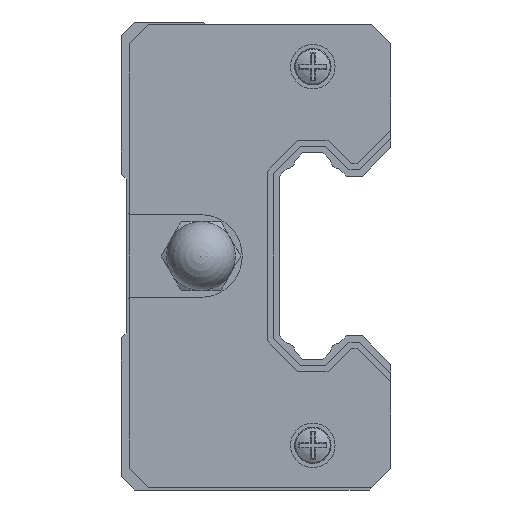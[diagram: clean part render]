
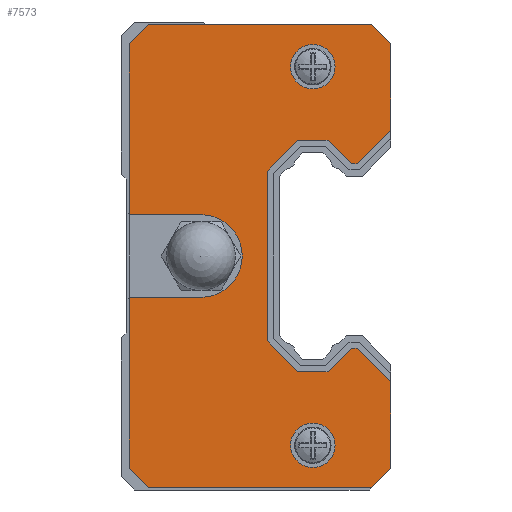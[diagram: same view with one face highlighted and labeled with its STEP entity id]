
A CAD part, left-side view. The second image highlights one B-rep face of the part: STEP entity #7573.
In plain terms, the highlighted planar face has unit normal (-1, 0, 0) as drawn and (1, 0, 0) by its records, which use the part's own axes.
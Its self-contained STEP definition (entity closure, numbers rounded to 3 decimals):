
#7555 = VERTEX_POINT('',#7556);
#7556 = CARTESIAN_POINT('',(2.5,10.07,15.365));
#7561 = EDGE_CURVE('',#7555,#7555,#7562,.T.);
#7562 = CIRCLE('',#7563,1.615);
#7563 = AXIS2_PLACEMENT_3D('',#7564,#7565,#7566);
#7564 = CARTESIAN_POINT('',(2.5,10.07,13.75));
#7565 = DIRECTION('',(-1.,0.,0.));
#7566 = DIRECTION('',(0.,0.,1.));
#7573 = ADVANCED_FACE('',(#7574,#7769,#7772),#7783,.T.);
#7574 = FACE_BOUND('',#7575,.T.);
#7575 = EDGE_LOOP('',(#7576,#7586,#7594,#7602,#7610,#7618,#7626,#7634,
    #7642,#7650,#7658,#7666,#7674,#7682,#7690,#7698,#7706,#7714,#7723,
    #7731,#7739,#7747,#7755,#7763));
#7576 = ORIENTED_EDGE('',*,*,#7577,.F.);
#7577 = EDGE_CURVE('',#7578,#7580,#7582,.T.);
#7578 = VERTEX_POINT('',#7579);
#7579 = CARTESIAN_POINT('',(2.5,6.849,6.699));
#7580 = VERTEX_POINT('',#7581);
#7581 = CARTESIAN_POINT('',(2.5,4.4,9.148));
#7582 = LINE('',#7583,#7584);
#7583 = CARTESIAN_POINT('',(2.5,6.849,6.699));
#7584 = VECTOR('',#7585,1.);
#7585 = DIRECTION('',(0.,-0.707,0.707));
#7586 = ORIENTED_EDGE('',*,*,#7587,.F.);
#7587 = EDGE_CURVE('',#7588,#7578,#7590,.T.);
#7588 = VERTEX_POINT('',#7589);
#7589 = CARTESIAN_POINT('',(2.5,7.267,6.699));
#7590 = LINE('',#7591,#7592);
#7591 = CARTESIAN_POINT('',(2.5,7.267,6.699));
#7592 = VECTOR('',#7593,1.);
#7593 = DIRECTION('',(0.,-1.,0.));
#7594 = ORIENTED_EDGE('',*,*,#7595,.F.);
#7595 = EDGE_CURVE('',#7596,#7588,#7598,.T.);
#7596 = VERTEX_POINT('',#7597);
#7597 = CARTESIAN_POINT('',(2.5,8.968,8.4));
#7598 = LINE('',#7599,#7600);
#7599 = CARTESIAN_POINT('',(2.5,8.968,8.4));
#7600 = VECTOR('',#7601,1.);
#7601 = DIRECTION('',(0.,-0.707,-0.707));
#7602 = ORIENTED_EDGE('',*,*,#7603,.F.);
#7603 = EDGE_CURVE('',#7604,#7596,#7606,.T.);
#7604 = VERTEX_POINT('',#7605);
#7605 = CARTESIAN_POINT('',(2.5,11.172,8.4));
#7606 = LINE('',#7607,#7608);
#7607 = CARTESIAN_POINT('',(2.5,11.172,8.4));
#7608 = VECTOR('',#7609,1.);
#7609 = DIRECTION('',(0.,-1.,0.));
#7610 = ORIENTED_EDGE('',*,*,#7611,.F.);
#7611 = EDGE_CURVE('',#7612,#7604,#7614,.T.);
#7612 = VERTEX_POINT('',#7613);
#7613 = CARTESIAN_POINT('',(2.5,13.4,6.172));
#7614 = LINE('',#7615,#7616);
#7615 = CARTESIAN_POINT('',(2.5,13.4,6.172));
#7616 = VECTOR('',#7617,1.);
#7617 = DIRECTION('',(0.,-0.707,0.707));
#7618 = ORIENTED_EDGE('',*,*,#7619,.F.);
#7619 = EDGE_CURVE('',#7620,#7612,#7622,.T.);
#7620 = VERTEX_POINT('',#7621);
#7621 = CARTESIAN_POINT('',(2.5,13.4,-6.172));
#7622 = LINE('',#7623,#7624);
#7623 = CARTESIAN_POINT('',(2.5,13.4,-6.172));
#7624 = VECTOR('',#7625,1.);
#7625 = DIRECTION('',(0.,0.,1.));
#7626 = ORIENTED_EDGE('',*,*,#7627,.F.);
#7627 = EDGE_CURVE('',#7628,#7620,#7630,.T.);
#7628 = VERTEX_POINT('',#7629);
#7629 = CARTESIAN_POINT('',(2.5,11.172,-8.4));
#7630 = LINE('',#7631,#7632);
#7631 = CARTESIAN_POINT('',(2.5,11.172,-8.4));
#7632 = VECTOR('',#7633,1.);
#7633 = DIRECTION('',(0.,0.707,0.707));
#7634 = ORIENTED_EDGE('',*,*,#7635,.F.);
#7635 = EDGE_CURVE('',#7636,#7628,#7638,.T.);
#7636 = VERTEX_POINT('',#7637);
#7637 = CARTESIAN_POINT('',(2.5,8.968,-8.4));
#7638 = LINE('',#7639,#7640);
#7639 = CARTESIAN_POINT('',(2.5,8.968,-8.4));
#7640 = VECTOR('',#7641,1.);
#7641 = DIRECTION('',(0.,1.,0.));
#7642 = ORIENTED_EDGE('',*,*,#7643,.F.);
#7643 = EDGE_CURVE('',#7644,#7636,#7646,.T.);
#7644 = VERTEX_POINT('',#7645);
#7645 = CARTESIAN_POINT('',(2.5,7.267,-6.699));
#7646 = LINE('',#7647,#7648);
#7647 = CARTESIAN_POINT('',(2.5,7.267,-6.699));
#7648 = VECTOR('',#7649,1.);
#7649 = DIRECTION('',(0.,0.707,-0.707));
#7650 = ORIENTED_EDGE('',*,*,#7651,.F.);
#7651 = EDGE_CURVE('',#7652,#7644,#7654,.T.);
#7652 = VERTEX_POINT('',#7653);
#7653 = CARTESIAN_POINT('',(2.5,6.849,-6.699));
#7654 = LINE('',#7655,#7656);
#7655 = CARTESIAN_POINT('',(2.5,6.849,-6.699));
#7656 = VECTOR('',#7657,1.);
#7657 = DIRECTION('',(0.,1.,0.));
#7658 = ORIENTED_EDGE('',*,*,#7659,.F.);
#7659 = EDGE_CURVE('',#7660,#7652,#7662,.T.);
#7660 = VERTEX_POINT('',#7661);
#7661 = CARTESIAN_POINT('',(2.5,4.4,-9.148));
#7662 = LINE('',#7663,#7664);
#7663 = CARTESIAN_POINT('',(2.5,4.4,-9.148));
#7664 = VECTOR('',#7665,1.);
#7665 = DIRECTION('',(0.,0.707,0.707));
#7666 = ORIENTED_EDGE('',*,*,#7667,.T.);
#7667 = EDGE_CURVE('',#7660,#7668,#7670,.T.);
#7668 = VERTEX_POINT('',#7669);
#7669 = CARTESIAN_POINT('',(2.5,4.4,-15.412));
#7670 = LINE('',#7671,#7672);
#7671 = CARTESIAN_POINT('',(2.5,4.4,15.412));
#7672 = VECTOR('',#7673,1.);
#7673 = DIRECTION('',(0.,0.,-1.));
#7674 = ORIENTED_EDGE('',*,*,#7675,.T.);
#7675 = EDGE_CURVE('',#7668,#7676,#7678,.T.);
#7676 = VERTEX_POINT('',#7677);
#7677 = CARTESIAN_POINT('',(2.5,5.788,-16.8));
#7678 = LINE('',#7679,#7680);
#7679 = CARTESIAN_POINT('',(2.5,4.4,-15.412));
#7680 = VECTOR('',#7681,1.);
#7681 = DIRECTION('',(0.,0.707,-0.707));
#7682 = ORIENTED_EDGE('',*,*,#7683,.T.);
#7683 = EDGE_CURVE('',#7676,#7684,#7686,.T.);
#7684 = VERTEX_POINT('',#7685);
#7685 = CARTESIAN_POINT('',(2.5,22.012,-16.8));
#7686 = LINE('',#7687,#7688);
#7687 = CARTESIAN_POINT('',(2.5,5.788,-16.8));
#7688 = VECTOR('',#7689,1.);
#7689 = DIRECTION('',(0.,1.,0.));
#7690 = ORIENTED_EDGE('',*,*,#7691,.T.);
#7691 = EDGE_CURVE('',#7684,#7692,#7694,.T.);
#7692 = VERTEX_POINT('',#7693);
#7693 = CARTESIAN_POINT('',(2.5,23.4,-15.412));
#7694 = LINE('',#7695,#7696);
#7695 = CARTESIAN_POINT('',(2.5,22.012,-16.8));
#7696 = VECTOR('',#7697,1.);
#7697 = DIRECTION('',(0.,0.707,0.707));
#7698 = ORIENTED_EDGE('',*,*,#7699,.T.);
#7699 = EDGE_CURVE('',#7692,#7700,#7702,.T.);
#7700 = VERTEX_POINT('',#7701);
#7701 = CARTESIAN_POINT('',(2.5,23.4,-3.));
#7702 = LINE('',#7703,#7704);
#7703 = CARTESIAN_POINT('',(2.5,23.4,-15.412));
#7704 = VECTOR('',#7705,1.);
#7705 = DIRECTION('',(0.,0.,1.));
#7706 = ORIENTED_EDGE('',*,*,#7707,.F.);
#7707 = EDGE_CURVE('',#7708,#7700,#7710,.T.);
#7708 = VERTEX_POINT('',#7709);
#7709 = CARTESIAN_POINT('',(2.5,18.2,-3.));
#7710 = LINE('',#7711,#7712);
#7711 = CARTESIAN_POINT('',(2.5,18.2,-3.));
#7712 = VECTOR('',#7713,1.);
#7713 = DIRECTION('',(0.,1.,0.));
#7714 = ORIENTED_EDGE('',*,*,#7715,.F.);
#7715 = EDGE_CURVE('',#7716,#7708,#7718,.T.);
#7716 = VERTEX_POINT('',#7717);
#7717 = CARTESIAN_POINT('',(2.5,18.2,3.));
#7718 = CIRCLE('',#7719,3.);
#7719 = AXIS2_PLACEMENT_3D('',#7720,#7721,#7722);
#7720 = CARTESIAN_POINT('',(2.5,18.2,0.));
#7721 = DIRECTION('',(1.,0.,0.));
#7722 = DIRECTION('',(0.,0.,-1.));
#7723 = ORIENTED_EDGE('',*,*,#7724,.F.);
#7724 = EDGE_CURVE('',#7725,#7716,#7727,.T.);
#7725 = VERTEX_POINT('',#7726);
#7726 = CARTESIAN_POINT('',(2.5,23.4,3.));
#7727 = LINE('',#7728,#7729);
#7728 = CARTESIAN_POINT('',(2.5,23.4,3.));
#7729 = VECTOR('',#7730,1.);
#7730 = DIRECTION('',(0.,-1.,0.));
#7731 = ORIENTED_EDGE('',*,*,#7732,.T.);
#7732 = EDGE_CURVE('',#7725,#7733,#7735,.T.);
#7733 = VERTEX_POINT('',#7734);
#7734 = CARTESIAN_POINT('',(2.5,23.4,15.412));
#7735 = LINE('',#7736,#7737);
#7736 = CARTESIAN_POINT('',(2.5,23.4,-15.412));
#7737 = VECTOR('',#7738,1.);
#7738 = DIRECTION('',(0.,0.,1.));
#7739 = ORIENTED_EDGE('',*,*,#7740,.T.);
#7740 = EDGE_CURVE('',#7733,#7741,#7743,.T.);
#7741 = VERTEX_POINT('',#7742);
#7742 = CARTESIAN_POINT('',(2.5,22.012,16.8));
#7743 = LINE('',#7744,#7745);
#7744 = CARTESIAN_POINT('',(2.5,23.4,15.412));
#7745 = VECTOR('',#7746,1.);
#7746 = DIRECTION('',(0.,-0.707,0.707));
#7747 = ORIENTED_EDGE('',*,*,#7748,.T.);
#7748 = EDGE_CURVE('',#7741,#7749,#7751,.T.);
#7749 = VERTEX_POINT('',#7750);
#7750 = CARTESIAN_POINT('',(2.5,5.788,16.8));
#7751 = LINE('',#7752,#7753);
#7752 = CARTESIAN_POINT('',(2.5,22.012,16.8));
#7753 = VECTOR('',#7754,1.);
#7754 = DIRECTION('',(0.,-1.,0.));
#7755 = ORIENTED_EDGE('',*,*,#7756,.T.);
#7756 = EDGE_CURVE('',#7749,#7757,#7759,.T.);
#7757 = VERTEX_POINT('',#7758);
#7758 = CARTESIAN_POINT('',(2.5,4.4,15.412));
#7759 = LINE('',#7760,#7761);
#7760 = CARTESIAN_POINT('',(2.5,5.788,16.8));
#7761 = VECTOR('',#7762,1.);
#7762 = DIRECTION('',(0.,-0.707,-0.707));
#7763 = ORIENTED_EDGE('',*,*,#7764,.T.);
#7764 = EDGE_CURVE('',#7757,#7580,#7765,.T.);
#7765 = LINE('',#7766,#7767);
#7766 = CARTESIAN_POINT('',(2.5,4.4,15.412));
#7767 = VECTOR('',#7768,1.);
#7768 = DIRECTION('',(0.,0.,-1.));
#7769 = FACE_BOUND('',#7770,.T.);
#7770 = EDGE_LOOP('',(#7771));
#7771 = ORIENTED_EDGE('',*,*,#7561,.T.);
#7772 = FACE_BOUND('',#7773,.T.);
#7773 = EDGE_LOOP('',(#7774));
#7774 = ORIENTED_EDGE('',*,*,#7775,.T.);
#7775 = EDGE_CURVE('',#7776,#7776,#7778,.T.);
#7776 = VERTEX_POINT('',#7777);
#7777 = CARTESIAN_POINT('',(2.5,10.07,-12.135));
#7778 = CIRCLE('',#7779,1.615);
#7779 = AXIS2_PLACEMENT_3D('',#7780,#7781,#7782);
#7780 = CARTESIAN_POINT('',(2.5,10.07,-13.75));
#7781 = DIRECTION('',(-1.,0.,0.));
#7782 = DIRECTION('',(0.,0.,1.));
#7783 = PLANE('',#7784);
#7784 = AXIS2_PLACEMENT_3D('',#7785,#7786,#7787);
#7785 = CARTESIAN_POINT('',(2.5,0.,0.));
#7786 = DIRECTION('',(1.,0.,0.));
#7787 = DIRECTION('',(0.,0.,1.));
